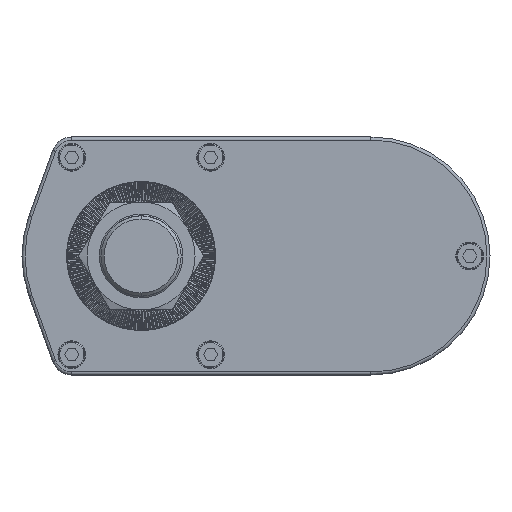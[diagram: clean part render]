
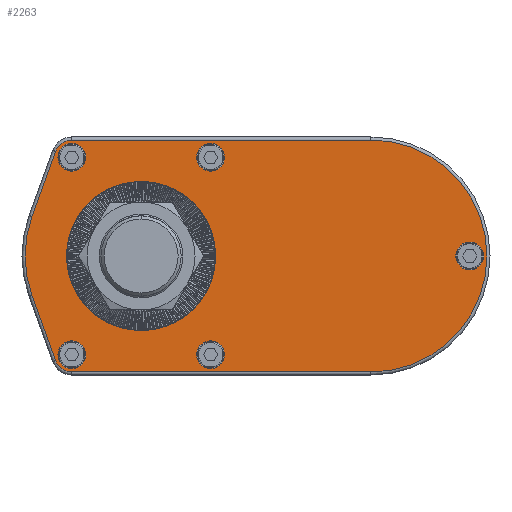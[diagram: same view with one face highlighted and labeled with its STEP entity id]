
A CAD part, left-side view. The second image highlights one B-rep face of the part: STEP entity #2263.
In plain terms, the highlighted planar face has unit normal (-1, 0, 0).
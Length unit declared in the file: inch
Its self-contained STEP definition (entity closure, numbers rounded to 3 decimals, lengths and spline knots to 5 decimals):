
#2263=ADVANCED_FACE('',(#5880,#5881,#5882,#5883,#5884,#5885,#5886),#5887,.F.);
#5880=FACE_BOUND('',#10989,.T.);
#5881=FACE_BOUND('',#10990,.T.);
#5882=FACE_BOUND('',#10991,.T.);
#5883=FACE_BOUND('',#10992,.T.);
#5884=FACE_BOUND('',#10993,.T.);
#5885=FACE_BOUND('',#10994,.T.);
#5886=FACE_OUTER_BOUND('',#10995,.T.);
#5887=PLANE('',#10996);
#10989=EDGE_LOOP('',(#18143,#18144));
#10990=EDGE_LOOP('',(#18145,#18146));
#10991=EDGE_LOOP('',(#18147,#18148));
#10992=EDGE_LOOP('',(#18149,#18150));
#10993=EDGE_LOOP('',(#18151,#18152));
#10994=EDGE_LOOP('',(#18153,#18154));
#10995=EDGE_LOOP('',(#18155,#18156,#18157,#18158,#18159,#18160,#18161,#18162));
#10996=AXIS2_PLACEMENT_3D('',#18163,#18164,#18165);
#18143=ORIENTED_EDGE('',*,*,#31640,.F.);
#18144=ORIENTED_EDGE('',*,*,#31641,.F.);
#18145=ORIENTED_EDGE('',*,*,#31642,.T.);
#18146=ORIENTED_EDGE('',*,*,#31643,.T.);
#18147=ORIENTED_EDGE('',*,*,#30861,.T.);
#18148=ORIENTED_EDGE('',*,*,#31644,.T.);
#18149=ORIENTED_EDGE('',*,*,#31645,.T.);
#18150=ORIENTED_EDGE('',*,*,#31646,.T.);
#18151=ORIENTED_EDGE('',*,*,#31647,.T.);
#18152=ORIENTED_EDGE('',*,*,#31648,.T.);
#18153=ORIENTED_EDGE('',*,*,#31590,.T.);
#18154=ORIENTED_EDGE('',*,*,#31649,.T.);
#18155=ORIENTED_EDGE('',*,*,#31650,.T.);
#18156=ORIENTED_EDGE('',*,*,#31651,.T.);
#18157=ORIENTED_EDGE('',*,*,#31652,.T.);
#18158=ORIENTED_EDGE('',*,*,#30430,.T.);
#18159=ORIENTED_EDGE('',*,*,#31653,.T.);
#18160=ORIENTED_EDGE('',*,*,#31654,.T.);
#18161=ORIENTED_EDGE('',*,*,#31655,.T.);
#18162=ORIENTED_EDGE('',*,*,#31656,.T.);
#18163=CARTESIAN_POINT('',(0.0,-2.93307,0.0));
#18164=DIRECTION('',(1.0,0.0,0.0));
#18165=DIRECTION('',(0.0,1.0,-0.0));
#30430=EDGE_CURVE('',#36441,#36439,#36442,.F.);
#30861=EDGE_CURVE('',#37176,#37180,#37182,.T.);
#31590=EDGE_CURVE('',#38352,#38356,#38358,.T.);
#31640=EDGE_CURVE('',#38439,#38440,#38441,.F.);
#31641=EDGE_CURVE('',#38440,#38439,#38442,.F.);
#31642=EDGE_CURVE('',#38443,#38444,#38445,.T.);
#31643=EDGE_CURVE('',#38444,#38443,#38446,.T.);
#31644=EDGE_CURVE('',#37180,#37176,#38447,.T.);
#31645=EDGE_CURVE('',#38448,#38449,#38450,.T.);
#31646=EDGE_CURVE('',#38449,#38448,#38451,.T.);
#31647=EDGE_CURVE('',#38452,#38453,#38454,.T.);
#31648=EDGE_CURVE('',#38453,#38452,#38455,.T.);
#31649=EDGE_CURVE('',#38356,#38352,#38456,.T.);
#31650=EDGE_CURVE('',#38457,#38458,#38459,.F.);
#31651=EDGE_CURVE('',#38458,#38460,#38461,.F.);
#31652=EDGE_CURVE('',#38460,#36441,#38462,.F.);
#31653=EDGE_CURVE('',#36439,#38463,#38464,.F.);
#31654=EDGE_CURVE('',#38463,#38465,#38466,.F.);
#31655=EDGE_CURVE('',#38465,#38467,#38468,.F.);
#31656=EDGE_CURVE('',#38467,#38457,#38469,.F.);
#36439=VERTEX_POINT('',#44685);
#36441=VERTEX_POINT('',#44687);
#36442=LINE('',#44688,#44689);
#37176=VERTEX_POINT('',#45682);
#37180=VERTEX_POINT('',#45687);
#37182=CIRCLE('',#45690,0.17717);
#38352=VERTEX_POINT('',#47309);
#38356=VERTEX_POINT('',#47314);
#38358=CIRCLE('',#47317,0.17717);
#38439=VERTEX_POINT('',#47412);
#38440=VERTEX_POINT('',#47413);
#38441=CIRCLE('',#47414,0.94882);
#38442=CIRCLE('',#47415,0.94882);
#38443=VERTEX_POINT('',#47416);
#38444=VERTEX_POINT('',#47417);
#38445=CIRCLE('',#47418,0.17717);
#38446=CIRCLE('',#47419,0.17717);
#38447=CIRCLE('',#47420,0.17717);
#38448=VERTEX_POINT('',#47421);
#38449=VERTEX_POINT('',#47422);
#38450=CIRCLE('',#47423,0.17717);
#38451=CIRCLE('',#47424,0.17717);
#38452=VERTEX_POINT('',#47425);
#38453=VERTEX_POINT('',#47426);
#38454=CIRCLE('',#47427,0.17717);
#38455=CIRCLE('',#47428,0.17717);
#38456=CIRCLE('',#47429,0.17717);
#38457=VERTEX_POINT('',#47430);
#38458=VERTEX_POINT('',#47431);
#38459=CIRCLE('',#47432,1.48031);
#38460=VERTEX_POINT('',#47433);
#38461=LINE('',#47434,#47435);
#38462=CIRCLE('',#47436,0.22047);
#38463=VERTEX_POINT('',#47437);
#38464=CIRCLE('',#47438,1.48031);
#38465=VERTEX_POINT('',#47439);
#38466=LINE('',#47440,#47441);
#38467=VERTEX_POINT('',#47442);
#38468=CIRCLE('',#47443,0.22047);
#38469=LINE('',#47444,#47445);
#44685=CARTESIAN_POINT('',(0.0,-2.93307,-1.48031));
#44687=CARTESIAN_POINT('',(0.0,0.88425,-1.48031));
#44688=CARTESIAN_POINT('',(0.0,-2.93307,-1.48031));
#44689=VECTOR('',#55225,39.37008);
#45682=CARTESIAN_POINT('',(0.0,0.88425,1.08268));
#45687=CARTESIAN_POINT('',(0.0,0.88425,1.43701));
#45690=AXIS2_PLACEMENT_3D('',#55789,#55790,#55791);
#47309=CARTESIAN_POINT('',(0.0,0.88425,-1.43701));
#47314=CARTESIAN_POINT('',(0.0,0.88425,-1.08268));
#47317=AXIS2_PLACEMENT_3D('',#56633,#56634,#56635);
#47412=CARTESIAN_POINT('',(0.0,0.0,-0.94882));
#47413=CARTESIAN_POINT('',(0.0,0.,0.94882));
#47414=AXIS2_PLACEMENT_3D('',#56749,#56750,#56751);
#47415=AXIS2_PLACEMENT_3D('',#56752,#56753,#56754);
#47416=CARTESIAN_POINT('',(0.0,-4.19449,-0.17717));
#47417=CARTESIAN_POINT('',(0.0,-4.19449,0.17717));
#47418=AXIS2_PLACEMENT_3D('',#56755,#56756,#56757);
#47419=AXIS2_PLACEMENT_3D('',#56758,#56759,#56760);
#47420=AXIS2_PLACEMENT_3D('',#56761,#56762,#56763);
#47421=CARTESIAN_POINT('',(0.0,-0.8874,-1.43701));
#47422=CARTESIAN_POINT('',(0.0,-0.8874,-1.08268));
#47423=AXIS2_PLACEMENT_3D('',#56764,#56765,#56766);
#47424=AXIS2_PLACEMENT_3D('',#56767,#56768,#56769);
#47425=CARTESIAN_POINT('',(0.0,-0.8874,1.08268));
#47426=CARTESIAN_POINT('',(0.0,-0.8874,1.43701));
#47427=AXIS2_PLACEMENT_3D('',#56770,#56771,#56772);
#47428=AXIS2_PLACEMENT_3D('',#56773,#56774,#56775);
#47429=AXIS2_PLACEMENT_3D('',#56776,#56777,#56778);
#47430=CARTESIAN_POINT('',(0.0,1.39217,0.50319));
#47431=CARTESIAN_POINT('',(0.0,1.39217,-0.50319));
#47432=AXIS2_PLACEMENT_3D('',#56779,#56780,#56781);
#47433=CARTESIAN_POINT('',(0.0,1.0916,-1.33479));
#47434=CARTESIAN_POINT('',(0.0,1.0916,-1.33479));
#47435=VECTOR('',#56782,39.37008);
#47436=AXIS2_PLACEMENT_3D('',#56783,#56784,#56785);
#47437=CARTESIAN_POINT('',(0.0,-2.93307,1.48031));
#47438=AXIS2_PLACEMENT_3D('',#56786,#56787,#56788);
#47439=CARTESIAN_POINT('',(0.0,0.88425,1.48031));
#47440=CARTESIAN_POINT('',(0.0,0.88425,1.48031));
#47441=VECTOR('',#56789,39.37008);
#47442=CARTESIAN_POINT('',(0.0,1.0916,1.33479));
#47443=AXIS2_PLACEMENT_3D('',#56790,#56791,#56792);
#47444=CARTESIAN_POINT('',(0.0,1.39217,0.50319));
#47445=VECTOR('',#56793,39.37008);
#55225=DIRECTION('',(0.0,1.0,0.0));
#55789=CARTESIAN_POINT('',(0.0,0.88425,1.25984));
#55790=DIRECTION('',(1.0,0.0,0.0));
#55791=DIRECTION('',(0.0,0.0,-1.0));
#56633=CARTESIAN_POINT('',(0.0,0.88425,-1.25984));
#56634=DIRECTION('',(1.0,0.0,0.0));
#56635=DIRECTION('',(0.0,0.0,-1.0));
#56749=CARTESIAN_POINT('',(0.0,0.0,0.0));
#56750=DIRECTION('',(1.0,0.0,0.0));
#56751=DIRECTION('',(0.0,0.0,-1.0));
#56752=CARTESIAN_POINT('',(0.0,0.0,0.0));
#56753=DIRECTION('',(1.0,0.0,0.0));
#56754=DIRECTION('',(0.0,0.0,-1.0));
#56755=CARTESIAN_POINT('',(0.0,-4.19449,0.0));
#56756=DIRECTION('',(1.0,0.0,0.0));
#56757=DIRECTION('',(0.0,0.0,-1.0));
#56758=CARTESIAN_POINT('',(0.0,-4.19449,0.0));
#56759=DIRECTION('',(1.0,0.0,0.0));
#56760=DIRECTION('',(0.0,0.0,-1.0));
#56761=CARTESIAN_POINT('',(0.0,0.88425,1.25984));
#56762=DIRECTION('',(1.0,0.0,0.0));
#56763=DIRECTION('',(0.0,0.0,-1.0));
#56764=CARTESIAN_POINT('',(0.0,-0.8874,-1.25984));
#56765=DIRECTION('',(1.0,0.0,0.0));
#56766=DIRECTION('',(0.0,0.0,-1.0));
#56767=CARTESIAN_POINT('',(0.0,-0.8874,-1.25984));
#56768=DIRECTION('',(1.0,0.0,0.0));
#56769=DIRECTION('',(0.0,0.0,-1.0));
#56770=CARTESIAN_POINT('',(0.0,-0.8874,1.25984));
#56771=DIRECTION('',(1.0,0.0,0.0));
#56772=DIRECTION('',(0.0,0.0,-1.0));
#56773=CARTESIAN_POINT('',(0.0,-0.8874,1.25984));
#56774=DIRECTION('',(1.0,0.0,0.0));
#56775=DIRECTION('',(0.0,0.0,-1.0));
#56776=CARTESIAN_POINT('',(0.0,0.88425,-1.25984));
#56777=DIRECTION('',(1.0,0.0,0.0));
#56778=DIRECTION('',(0.0,0.0,-1.0));
#56779=CARTESIAN_POINT('',(0.0,0.,0.0));
#56780=DIRECTION('',(1.0,0.0,0.0));
#56781=DIRECTION('',(0.0,0.0,-1.0));
#56782=DIRECTION('',(0.0,0.34,0.94));
#56783=CARTESIAN_POINT('',(0.0,0.88425,-1.25984));
#56784=DIRECTION('',(1.0,0.0,0.0));
#56785=DIRECTION('',(0.0,0.0,-1.0));
#56786=CARTESIAN_POINT('',(0.0,-2.93307,0.0));
#56787=DIRECTION('',(1.0,0.0,0.0));
#56788=DIRECTION('',(0.0,0.0,-1.0));
#56789=DIRECTION('',(0.0,-1.0,0.0));
#56790=CARTESIAN_POINT('',(0.0,0.88425,1.25984));
#56791=DIRECTION('',(1.0,0.0,0.0));
#56792=DIRECTION('',(0.0,0.0,-1.0));
#56793=DIRECTION('',(0.0,-0.34,0.94));
